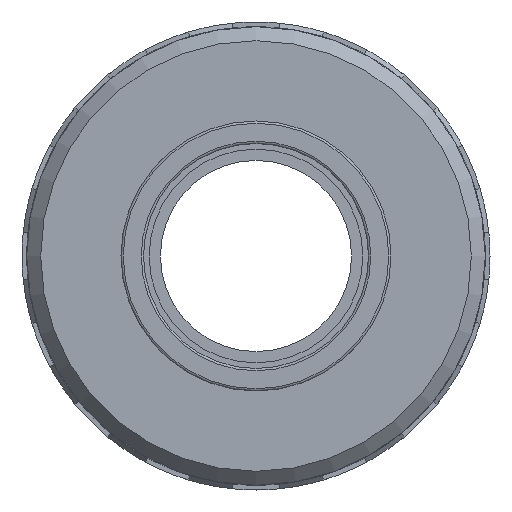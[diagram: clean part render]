
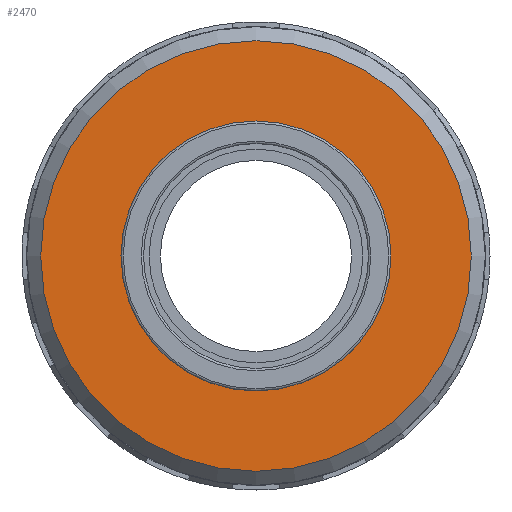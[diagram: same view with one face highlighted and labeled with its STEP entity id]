
A CAD part, left-side view. The second image highlights one B-rep face of the part: STEP entity #2470.
In plain terms, the highlighted planar face has unit normal (-1, 0, 0).
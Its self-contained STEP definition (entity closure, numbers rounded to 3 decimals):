
#64=FACE_BOUND('',#497,.T.);
#213=CIRCLE('',#2723,15.);
#216=CIRCLE('',#2730,23.92);
#348=FACE_OUTER_BOUND('',#496,.T.);
#496=EDGE_LOOP('',(#2252));
#497=EDGE_LOOP('',(#2253));
#1191=VERTEX_POINT('',#4199);
#1194=VERTEX_POINT('',#4211);
#1544=EDGE_CURVE('',#1191,#1191,#213,.T.);
#1549=EDGE_CURVE('',#1194,#1194,#216,.T.);
#2252=ORIENTED_EDGE('',*,*,#1549,.F.);
#2253=ORIENTED_EDGE('',*,*,#1544,.F.);
#2339=PLANE('',#2732);
#2470=ADVANCED_FACE('',(#348,#64),#2339,.T.);
#2723=AXIS2_PLACEMENT_3D('',#4200,#3456,#3457);
#2730=AXIS2_PLACEMENT_3D('',#4212,#3472,#3473);
#2732=AXIS2_PLACEMENT_3D('',#4214,#3476,#3477);
#3456=DIRECTION('center_axis',(-1.,0.,0.));
#3457=DIRECTION('ref_axis',(0.,0.,1.));
#3472=DIRECTION('center_axis',(1.,0.,0.));
#3473=DIRECTION('ref_axis',(0.,1.,0.));
#3476=DIRECTION('center_axis',(-1.,0.,0.));
#3477=DIRECTION('ref_axis',(0.,0.,1.));
#4199=CARTESIAN_POINT('',(-11.25,-15.,0.));
#4200=CARTESIAN_POINT('Origin',(-11.25,0.,0.));
#4211=CARTESIAN_POINT('',(-11.25,-23.92,0.));
#4212=CARTESIAN_POINT('Origin',(-11.25,0.,0.));
#4214=CARTESIAN_POINT('Origin',(-11.25,-15.,0.));
